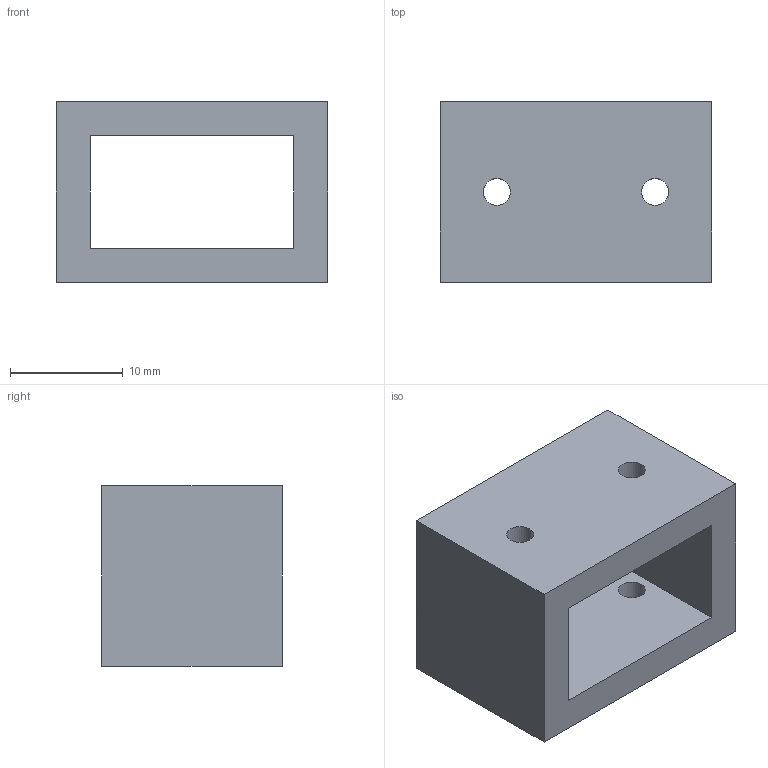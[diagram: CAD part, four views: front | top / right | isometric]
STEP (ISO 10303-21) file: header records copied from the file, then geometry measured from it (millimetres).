
FILE_DESCRIPTION(('Open CASCADE Model'),'2;1');
FILE_NAME('Open CASCADE Shape Model','2026-09-20T05:39:32',('Author'),( 'Open CASCADE'),'Open CASCADE STEP processor 7.9','Open CASCADE 7.9' ,'Unknown');
FILE_SCHEMA(('AUTOMOTIVE_DESIGN { 1 0 10303 214 1 1 1 1 }'));
Length unit declared in the file: millimetre
Products named in the file (1): Open CASCADE STEP translator 7.9 11
Bounding box: 24 x 16 x 16 mm (x, y, z)
Volume: 3209.7 mm3; surface area: 2638.3 mm2
Topology: 1 solids, 1 shells, 14 faces, 36 edges, 24 vertices
Faces by surface type: plane 10, cylinder 4
Full cylindrical faces by diameter (mm): 2.4 x4
Entity records: 910 total; most frequent: CARTESIAN_POINT 163, DIRECTION 130, LINE 76, VECTOR 76, ORIENTED_EDGE 72, PCURVE 72, DEFINITIONAL_REPRESENTATION 72, EDGE_CURVE 36
